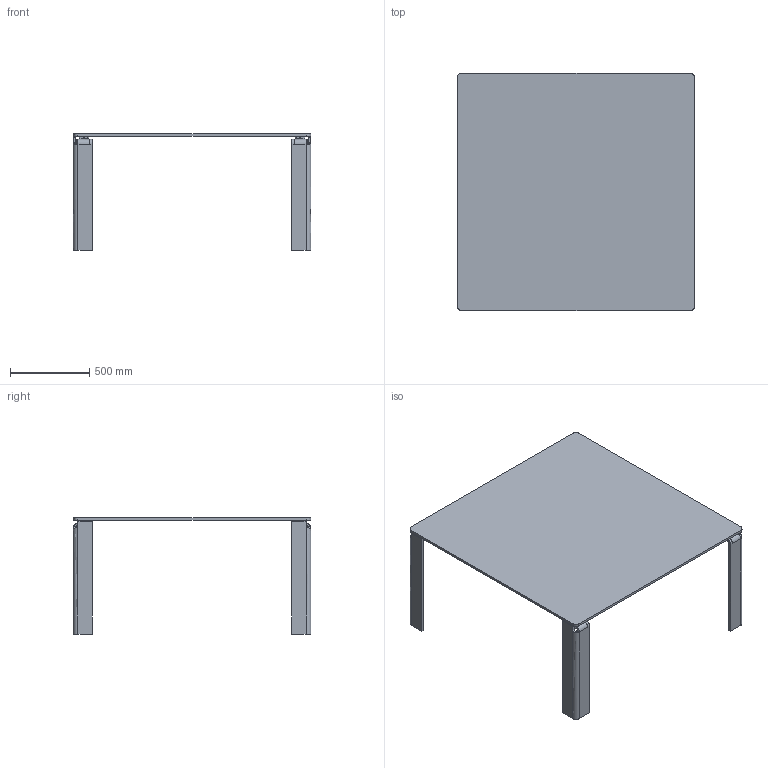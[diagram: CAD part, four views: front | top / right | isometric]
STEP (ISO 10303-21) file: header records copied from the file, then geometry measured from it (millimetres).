
FILE_DESCRIPTION(/* description */ (''),/* implementation_level */ '2;1');
FILE_NAME(/* name */ '4014 - Newton 150x150 Vetro',/* time_stamp */ '2012-06-18T11:37:56+02:00',/* author */ (''),/* organization */ (''),/* preprocessor_version */ 'ST-DEVELOPER v10',/* originating_system */ '',/* authorisation */ '');
FILE_SCHEMA (('CONFIG_CONTROL_DESIGN'));
Length unit declared in the file: millimetre
Products named in the file (1): 1
Bounding box: 1500 x 1500 x 734 mm (x, y, z)
Volume: 43682166.1 mm3; surface area: 6101099.5 mm2
Topology: 17 solids, 17 shells, 230 faces, 532 edges, 328 vertices
Faces by surface type: bspline 128, plane 102
Entity records: 8608 total; most frequent: CARTESIAN_POINT 5128, ORIENTED_EDGE 1048, EDGE_CURVE 524, B_SPLINE_CURVE_WITH_KNOTS 372, VERTEX_POINT 328, EDGE_LOOP 254, ADVANCED_FACE 230, FACE_OUTER_BOUND 230
